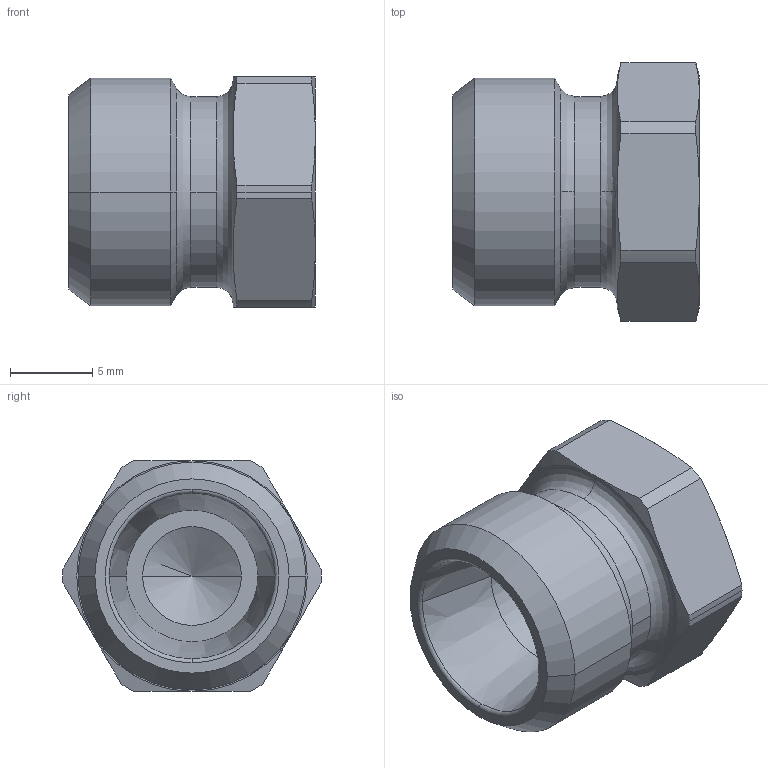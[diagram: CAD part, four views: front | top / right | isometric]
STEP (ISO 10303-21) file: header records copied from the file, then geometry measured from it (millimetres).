
FILE_DESCRIPTION((''),'2;1');
FILE_NAME('108005.stp','2007-10-31T16:31:15',(''),(''),'AutoCAD STEP 2000i','AutoCAD 2000i',', , ');
FILE_SCHEMA(('CONFIG_CONTROL_DESIGN'));
Length unit declared in the file: millimetre
Products named in the file (2): 108005.0; CHIAVE SMUSSATA#0
Assembly tree (1 placements, depth 2):
  108005.0
    CHIAVE SMUSSATA#0
Bounding box: 15 x 15.7 x 14 mm (x, y, z)
Volume: 1678.8 mm3; surface area: 1201.6 mm2
Topology: 1 solids, 1 shells, 52 faces, 126 edges, 77 vertices
Faces by surface type: cone 20, cylinder 16, plane 10, bspline 4, torus 2
Entity records: 1767 total; most frequent: CARTESIAN_POINT 479, DIRECTION 270, ORIENTED_EDGE 248, EDGE_CURVE 124, AXIS2_PLACEMENT_3D 120, VERTEX_POINT 77, CIRCLE 70, EDGE_LOOP 55
